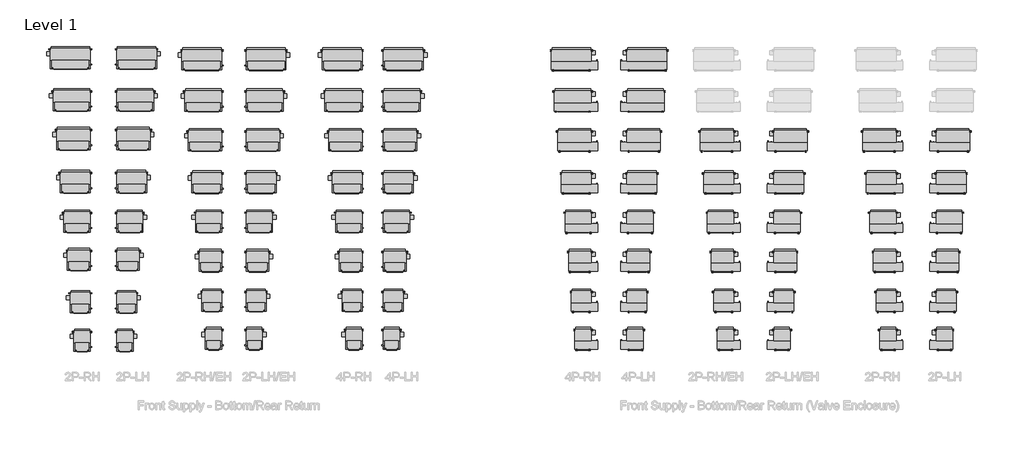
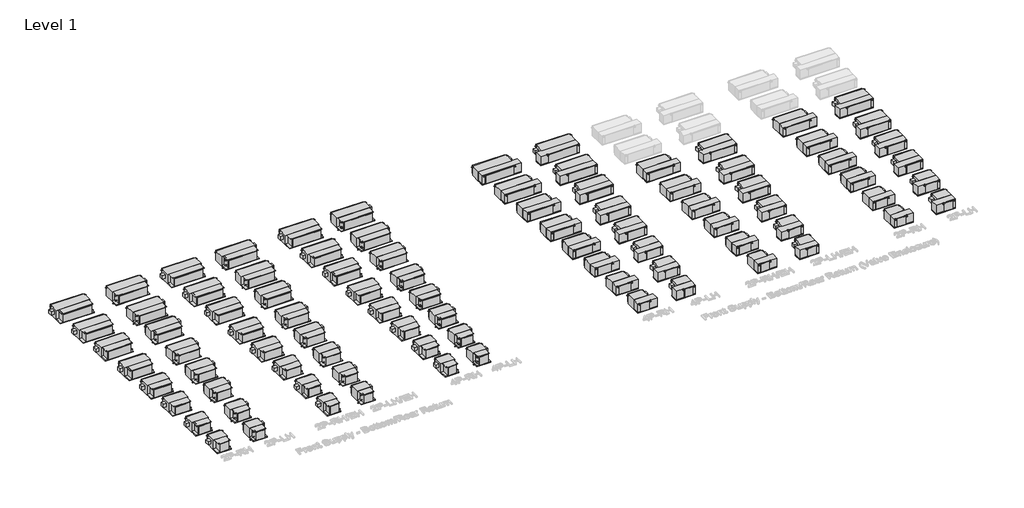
# One storey, part 1 of 5: 88 proxies.
"""IFC4 building model written with IfcOpenShell, lengths in millimetres."""

from ifc_helpers import new_model, si_unit, origin, place, context, project, spatial, transform, mapped, element, save
from components import mechanical_equipment_a65b9fbb, mechanical_equipment_17cbac74, mechanical_equipment_6f01a199, mechanical_equipment_4d0f3ce5, mechanical_equipment_c1538c46, mechanical_equipment_f685141f, mechanical_equipment_2556d2f0, mechanical_equipment_08a460e9, mechanical_equipment_5922c3ad, mechanical_equipment_8a5c4ff3, mechanical_equipment_4f3da22f, mechanical_equipment_0505dad4, mechanical_equipment_aca0d2b0, mechanical_equipment_d44dfcbe, mechanical_equipment_d9ed041b, mechanical_equipment_17672f8f, mechanical_equipment_0e0a8350, mechanical_equipment_1ba72c7d, mechanical_equipment_7e6c187c, mechanical_equipment_ee1d81b4, mechanical_equipment_5ac44aa6, mechanical_equipment_871d34c1, mechanical_equipment_f10d80ba, mechanical_equipment_8ddfa61c, mechanical_equipment_28140981, mechanical_equipment_e26db2fa, mechanical_equipment_0c4eee6a, mechanical_equipment_f5be78a4, mechanical_equipment_1f889669, mechanical_equipment_1070f4e9, mechanical_equipment_d068d5b9, mechanical_equipment_c19a59ca, mechanical_equipment_e9e5bf8a, mechanical_equipment_ea997f06, mechanical_equipment_628c5d06, mechanical_equipment_d50c850d, mechanical_equipment_cc3e10e3, mechanical_equipment_5bab922c, mechanical_equipment_5e729664, mechanical_equipment_cd13e895, mechanical_equipment_9a50b78a, mechanical_equipment_3d5ca929, mechanical_equipment_f9b23777, mechanical_equipment_52020410, mechanical_equipment_bec94e6a, mechanical_equipment_869e3af7, mechanical_equipment_fccde29a, mechanical_equipment_06df331c, mechanical_equipment_4fc60d53, mechanical_equipment_94f2105f, mechanical_equipment_08b20254, mechanical_equipment_d10e933b, mechanical_equipment_5d9127df, mechanical_equipment_019e71df, mechanical_equipment_762c0633, mechanical_equipment_56576a30, mechanical_equipment_ea229e45, mechanical_equipment_a7e31f39, mechanical_equipment_481dc3fd, mechanical_equipment_3fc1bf52

model = new_model("IFC4")

# Units and contexts
model_context = context("Model", 3, world=origin())
ifc_project = project(units=[si_unit("LENGTHUNIT", "METRE", prefix="MILLI")], contexts=[model_context])

# Site, building, storey
site = spatial("IfcSite", under=ifc_project)
building = spatial("IfcBuilding", under=site)
storey = spatial("IfcBuildingStorey", under=building, Name="Level 1", Elevation=0.0)

# Proxies
placement = place(None, origin())
mechanical_equipment_shape = mechanical_equipment_a65b9fbb(model_context)
element("IfcBuildingElementProxy", 1, Name="Concealed_High_Capacity_Horizontal_Fan_Coil_Unit_With_Plenum_-_42DCA_-_CARRIER_-_2-Pipe_Cool-EHeat_LH_2022 : Size 06 - 277v/60Hz/1Ph - 6 Row 4.0kW", ObjectType="Concealed_High_Capacity_Horizontal_Fan_Coil_Unit_With_Plenum_-_42DCA_-_CARRIER_-_2-Pipe_Cool-EHeat_LH_2022 : Size 06 - 277v/60Hz/1Ph - 6 Row 4.0kW", at=placement, inside=storey, context=model_context, shape_type="MappedRepresentation", body=[
    mapped(mechanical_equipment_shape, transform((-23259.7136326, -7951.7923252, 0.0), x_axis=(1.0, 0.0, 0.0), y_axis=(0.0, 1.0, 0.0), z_axis=(0.0, 0.0, 1.0))),
])
mechanical_equipment_2_shape = mechanical_equipment_17cbac74(model_context)
element("IfcBuildingElementProxy", 2, Name="Concealed_High_Capacity_Horizontal_Fan_Coil_Unit_With_Plenum_-_42DCA_-_CARRIER_-_2-Pipe_Cool-EHeat_LH_2022 : Size 08 - 277v/60Hz/1Ph - 6 Row 6.0kW", ObjectType="Concealed_High_Capacity_Horizontal_Fan_Coil_Unit_With_Plenum_-_42DCA_-_CARRIER_-_2-Pipe_Cool-EHeat_LH_2022 : Size 08 - 277v/60Hz/1Ph - 6 Row 6.0kW", at=placement, inside=storey, context=model_context, shape_type="MappedRepresentation", body=[
    mapped(mechanical_equipment_2_shape, transform((-23196.2136326, -6589.2154266, 0.0), x_axis=(1.0, 0.0, 0.0), y_axis=(0.0, 1.0, 0.0), z_axis=(0.0, 0.0, 1.0))),
])
mechanical_equipment_3_shape = mechanical_equipment_6f01a199(model_context)
element("IfcBuildingElementProxy", 3, Name="Concealed_High_Capacity_Horizontal_Fan_Coil_Unit_With_Plenum_-_42DCA_-_CARRIER_-_2-Pipe_Cool-EHeat_LH_2022 : Size 10 - 277v/60Hz/1Ph - 6 Row 7.0kW", ObjectType="Concealed_High_Capacity_Horizontal_Fan_Coil_Unit_With_Plenum_-_42DCA_-_CARRIER_-_2-Pipe_Cool-EHeat_LH_2022 : Size 10 - 277v/60Hz/1Ph - 6 Row 7.0kW", at=placement, inside=storey, context=model_context, shape_type="MappedRepresentation", body=[
    mapped(mechanical_equipment_3_shape, transform((-23145.4136326, -5167.6716717, 0.0), x_axis=(1.0, 0.0, 0.0), y_axis=(0.0, 1.0, 0.0), z_axis=(0.0, 0.0, 1.0))),
])
mechanical_equipment_4_shape = mechanical_equipment_4d0f3ce5(model_context)
element("IfcBuildingElementProxy", 4, Name="Concealed_High_Capacity_Horizontal_Fan_Coil_Unit_With_Plenum_-_42DCA_-_CARRIER_-_2-Pipe_Cool-EHeat_LH_2022 : Size 12 - 277v/60Hz/1Ph - 6 Row 9.0kW", ObjectType="Concealed_High_Capacity_Horizontal_Fan_Coil_Unit_With_Plenum_-_42DCA_-_CARRIER_-_2-Pipe_Cool-EHeat_LH_2022 : Size 12 - 277v/60Hz/1Ph - 6 Row 9.0kW", at=placement, inside=storey, context=model_context, shape_type="MappedRepresentation", body=[
    mapped(mechanical_equipment_4_shape, transform((-23081.9136326, -3769.7146594, 0.0), x_axis=(1.0, 0.0, 0.0), y_axis=(0.0, 1.0, 0.0), z_axis=(0.0, 0.0, 1.0))),
])
mechanical_equipment_5_shape = mechanical_equipment_c1538c46(model_context)
element("IfcBuildingElementProxy", 5, Name="Concealed_High_Capacity_Horizontal_Fan_Coil_Unit_With_Plenum_-_42DCA_-_CARRIER_-_2-Pipe_Cool-EHeat_LH_2022 : Size 14 - 277v/60Hz/1Ph - 6 Row 10.0kW", ObjectType="Concealed_High_Capacity_Horizontal_Fan_Coil_Unit_With_Plenum_-_42DCA_-_CARRIER_-_2-Pipe_Cool-EHeat_LH_2022 : Size 14 - 277v/60Hz/1Ph - 6 Row 10.0kW", at=placement, inside=storey, context=model_context, shape_type="MappedRepresentation", body=[
    mapped(mechanical_equipment_5_shape, transform((-23018.4136326, -2371.757647, 0.0), x_axis=(1.0, 0.0, 0.0), y_axis=(0.0, 1.0, 0.0), z_axis=(0.0, 0.0, 1.0))),
])
mechanical_equipment_6_shape = mechanical_equipment_f685141f(model_context)
element("IfcBuildingElementProxy", 6, Name="Concealed_High_Capacity_Horizontal_Fan_Coil_Unit_With_Plenum_-_42DCA_-_CARRIER_-_2-Pipe_Cool-EHeat_LH_2022 : Size 16 - 277v/60Hz/1Ph - 6 Row 12.0kW", ObjectType="Concealed_High_Capacity_Horizontal_Fan_Coil_Unit_With_Plenum_-_42DCA_-_CARRIER_-_2-Pipe_Cool-EHeat_LH_2022 : Size 16 - 277v/60Hz/1Ph - 6 Row 12.0kW", at=placement, inside=storey, context=model_context, shape_type="MappedRepresentation", body=[
    mapped(mechanical_equipment_6_shape, transform((-22954.9136326, -864.0337784, 0.0), x_axis=(1.0, 0.0, 0.0), y_axis=(0.0, 1.0, 0.0), z_axis=(0.0, 0.0, 1.0))),
])
mechanical_equipment_7_shape = mechanical_equipment_2556d2f0(model_context)
element("IfcBuildingElementProxy", 7, Name="Concealed_High_Capacity_Horizontal_Fan_Coil_Unit_With_Plenum_-_42DCA_-_CARRIER_-_2-Pipe_Cool-EHeat_LH_2022 : Size 18 - 277v/60Hz/1Ph - 6 Row 12.0kW", ObjectType="Concealed_High_Capacity_Horizontal_Fan_Coil_Unit_With_Plenum_-_42DCA_-_CARRIER_-_2-Pipe_Cool-EHeat_LH_2022 : Size 18 - 277v/60Hz/1Ph - 6 Row 12.0kW", at=placement, inside=storey, context=model_context, shape_type="MappedRepresentation", body=[
    mapped(mechanical_equipment_7_shape, transform((-22891.4136326, 549.3431202, 0.0), x_axis=(1.0, 0.0, 0.0), y_axis=(0.0, 1.0, 0.0), z_axis=(0.0, 0.0, 1.0))),
])
mechanical_equipment_8_shape = mechanical_equipment_08a460e9(model_context)
element("IfcBuildingElementProxy", 8, Name="Concealed_High_Capacity_Horizontal_Fan_Coil_Unit_With_Plenum_-_42DCA_-_CARRIER_-_2-Pipe_Cool-EHeat_LH_2022 : Size 20 - 277v/60Hz/1Ph - 6 Row 14.0kW", ObjectType="Concealed_High_Capacity_Horizontal_Fan_Coil_Unit_With_Plenum_-_42DCA_-_CARRIER_-_2-Pipe_Cool-EHeat_LH_2022 : Size 20 - 277v/60Hz/1Ph - 6 Row 14.0kW", at=placement, inside=storey, context=model_context, shape_type="MappedRepresentation", body=[
    mapped(mechanical_equipment_8_shape, transform((-22840.6136326, 2015.3332762, 0.0), x_axis=(1.0, 0.0, 0.0), y_axis=(0.0, 1.0, 0.0), z_axis=(0.0, 0.0, 1.0))),
])
mechanical_equipment_9_shape = mechanical_equipment_5922c3ad(model_context)
element("IfcBuildingElementProxy", 9, Name="Concealed_High_Capacity_Horizontal_Fan_Coil_Unit_With_Plenum_-_42DCA_-_CARRIER_-_4-Pipe_LH_2022 : Size 06 - 277v/60Hz/1Ph - 6/2 Coil", ObjectType="Concealed_High_Capacity_Horizontal_Fan_Coil_Unit_With_Plenum_-_42DCA_-_CARRIER_-_4-Pipe_LH_2022 : Size 06 - 277v/60Hz/1Ph - 6/2 Coil", at=placement, inside=storey, context=model_context, shape_type="MappedRepresentation", body=[
    mapped(mechanical_equipment_9_shape, transform((-18364.6658953, -7951.7923252, 0.0), x_axis=(1.0, 0.0, 0.0), y_axis=(0.0, 1.0, 0.0), z_axis=(0.0, 0.0, 1.0))),
])
mechanical_equipment_10_shape = mechanical_equipment_8a5c4ff3(model_context)
element("IfcBuildingElementProxy", 10, Name="Concealed_High_Capacity_Horizontal_Fan_Coil_Unit_With_Plenum_-_42DCA_-_CARRIER_-_4-Pipe_LH_2022 : Size 08 - 277v/60Hz/1Ph - 6/2 Coil", ObjectType="Concealed_High_Capacity_Horizontal_Fan_Coil_Unit_With_Plenum_-_42DCA_-_CARRIER_-_4-Pipe_LH_2022 : Size 08 - 277v/60Hz/1Ph - 6/2 Coil", at=placement, inside=storey, context=model_context, shape_type="MappedRepresentation", body=[
    mapped(mechanical_equipment_10_shape, transform((-18301.1658953, -6589.2154266, 0.0), x_axis=(1.0, 0.0, 0.0), y_axis=(0.0, 1.0, 0.0), z_axis=(0.0, 0.0, 1.0))),
])
mechanical_equipment_11_shape = mechanical_equipment_4f3da22f(model_context)
element("IfcBuildingElementProxy", 11, Name="Concealed_High_Capacity_Horizontal_Fan_Coil_Unit_With_Plenum_-_42DCA_-_CARRIER_-_4-Pipe_LH_2022 : Size 10 - 277v/60Hz/1Ph - 6/2 Coil", ObjectType="Concealed_High_Capacity_Horizontal_Fan_Coil_Unit_With_Plenum_-_42DCA_-_CARRIER_-_4-Pipe_LH_2022 : Size 10 - 277v/60Hz/1Ph - 6/2 Coil", at=placement, inside=storey, context=model_context, shape_type="MappedRepresentation", body=[
    mapped(mechanical_equipment_11_shape, transform((-18250.3658953, -5167.6716717, 0.0), x_axis=(1.0, 0.0, 0.0), y_axis=(0.0, 1.0, 0.0), z_axis=(0.0, 0.0, 1.0))),
])
mechanical_equipment_12_shape = mechanical_equipment_0505dad4(model_context)
element("IfcBuildingElementProxy", 12, Name="Concealed_High_Capacity_Horizontal_Fan_Coil_Unit_With_Plenum_-_42DCA_-_CARRIER_-_4-Pipe_LH_2022 : Size 12 - 277v/60Hz/1Ph - 6/2 Coil", ObjectType="Concealed_High_Capacity_Horizontal_Fan_Coil_Unit_With_Plenum_-_42DCA_-_CARRIER_-_4-Pipe_LH_2022 : Size 12 - 277v/60Hz/1Ph - 6/2 Coil", at=placement, inside=storey, context=model_context, shape_type="MappedRepresentation", body=[
    mapped(mechanical_equipment_12_shape, transform((-18186.8658953, -3769.7146594, 0.0), x_axis=(1.0, 0.0, 0.0), y_axis=(0.0, 1.0, 0.0), z_axis=(0.0, 0.0, 1.0))),
])
mechanical_equipment_13_shape = mechanical_equipment_aca0d2b0(model_context)
element("IfcBuildingElementProxy", 13, Name="Concealed_High_Capacity_Horizontal_Fan_Coil_Unit_With_Plenum_-_42DCA_-_CARRIER_-_4-Pipe_LH_2022 : Size 14 - 277v/60Hz/1Ph - 6/2 Coil", ObjectType="Concealed_High_Capacity_Horizontal_Fan_Coil_Unit_With_Plenum_-_42DCA_-_CARRIER_-_4-Pipe_LH_2022 : Size 14 - 277v/60Hz/1Ph - 6/2 Coil", at=placement, inside=storey, context=model_context, shape_type="MappedRepresentation", body=[
    mapped(mechanical_equipment_13_shape, transform((-18123.3658953, -2371.757647, 0.0), x_axis=(1.0, 0.0, 0.0), y_axis=(0.0, 1.0, 0.0), z_axis=(0.0, 0.0, 1.0))),
])
mechanical_equipment_14_shape = mechanical_equipment_d44dfcbe(model_context)
element("IfcBuildingElementProxy", 14, Name="Concealed_High_Capacity_Horizontal_Fan_Coil_Unit_With_Plenum_-_42DCA_-_CARRIER_-_4-Pipe_LH_2022 : Size 16 - 277v/60Hz/1Ph - 6/2 Coil", ObjectType="Concealed_High_Capacity_Horizontal_Fan_Coil_Unit_With_Plenum_-_42DCA_-_CARRIER_-_4-Pipe_LH_2022 : Size 16 - 277v/60Hz/1Ph - 6/2 Coil", at=placement, inside=storey, context=model_context, shape_type="MappedRepresentation", body=[
    mapped(mechanical_equipment_14_shape, transform((-18059.8658953, -864.0337784, 0.0), x_axis=(1.0, 0.0, 0.0), y_axis=(0.0, 1.0, 0.0), z_axis=(0.0, 0.0, 1.0))),
])
mechanical_equipment_15_shape = mechanical_equipment_d9ed041b(model_context)
element("IfcBuildingElementProxy", 15, Name="Concealed_High_Capacity_Horizontal_Fan_Coil_Unit_With_Plenum_-_42DCA_-_CARRIER_-_4-Pipe_LH_2022 : Size 18 - 277v/60Hz/1Ph - 6/2 Coil", ObjectType="Concealed_High_Capacity_Horizontal_Fan_Coil_Unit_With_Plenum_-_42DCA_-_CARRIER_-_4-Pipe_LH_2022 : Size 18 - 277v/60Hz/1Ph - 6/2 Coil", at=placement, inside=storey, context=model_context, shape_type="MappedRepresentation", body=[
    mapped(mechanical_equipment_15_shape, transform((-17996.3658953, 549.3431202, 0.0), x_axis=(1.0, 0.0, 0.0), y_axis=(0.0, 1.0, 0.0), z_axis=(0.0, 0.0, 1.0))),
])
mechanical_equipment_16_shape = mechanical_equipment_17672f8f(model_context)
element("IfcBuildingElementProxy", 16, Name="Concealed_High_Capacity_Horizontal_Fan_Coil_Unit_With_Plenum_-_42DCA_-_CARRIER_-_4-Pipe_LH_2022 : Size 20 - 277v/60Hz/1Ph - 6/2 Coil", ObjectType="Concealed_High_Capacity_Horizontal_Fan_Coil_Unit_With_Plenum_-_42DCA_-_CARRIER_-_4-Pipe_LH_2022 : Size 20 - 277v/60Hz/1Ph - 6/2 Coil", at=placement, inside=storey, context=model_context, shape_type="MappedRepresentation", body=[
    mapped(mechanical_equipment_16_shape, transform((-17945.5658953, 2015.3332762, 0.0), x_axis=(1.0, 0.0, 0.0), y_axis=(0.0, 1.0, 0.0), z_axis=(0.0, 0.0, 1.0))),
])
mechanical_equipment_17_shape = mechanical_equipment_0e0a8350(model_context)
element("IfcBuildingElementProxy", 17, Name="Concealed_High_Capacity_Horizontal_Fan_Coil_Unit_With_Plenum_-_42DCA_-_CARRIER_-_4-Pipe_ValveEnclosure_RH_2022 : Size 06 - 277v/60Hz/1Ph - 6/2 Coil", ObjectType="Concealed_High_Capacity_Horizontal_Fan_Coil_Unit_With_Plenum_-_42DCA_-_CARRIER_-_4-Pipe_ValveEnclosure_RH_2022 : Size 06 - 277v/60Hz/1Ph - 6/2 Coil", at=placement, inside=storey, context=model_context, shape_type="MappedRepresentation", body=[
    mapped(mechanical_equipment_17_shape, transform((-11532.0658953, -7951.7923252, 0.0), x_axis=(1.0, 0.0, 0.0), y_axis=(0.0, 1.0, 0.0), z_axis=(0.0, 0.0, 1.0))),
])
mechanical_equipment_18_shape = mechanical_equipment_1ba72c7d(model_context)
element("IfcBuildingElementProxy", 18, Name="Concealed_High_Capacity_Horizontal_Fan_Coil_Unit_With_Plenum_-_42DCA_-_CARRIER_-_4-Pipe_ValveEnclosure_RH_2022 : Size 08 - 277v/60Hz/1Ph - 6/2 Coil", ObjectType="Concealed_High_Capacity_Horizontal_Fan_Coil_Unit_With_Plenum_-_42DCA_-_CARRIER_-_4-Pipe_ValveEnclosure_RH_2022 : Size 08 - 277v/60Hz/1Ph - 6/2 Coil", at=placement, inside=storey, context=model_context, shape_type="MappedRepresentation", body=[
    mapped(mechanical_equipment_18_shape, transform((-11595.5658953, -6589.2154266, 0.0), x_axis=(1.0, 0.0, 0.0), y_axis=(0.0, 1.0, 0.0), z_axis=(0.0, 0.0, 1.0))),
])
mechanical_equipment_19_shape = mechanical_equipment_7e6c187c(model_context)
element("IfcBuildingElementProxy", 19, Name="Concealed_High_Capacity_Horizontal_Fan_Coil_Unit_With_Plenum_-_42DCA_-_CARRIER_-_4-Pipe_ValveEnclosure_RH_2022 : Size 10 - 277v/60Hz/1Ph - 6/2 Coil", ObjectType="Concealed_High_Capacity_Horizontal_Fan_Coil_Unit_With_Plenum_-_42DCA_-_CARRIER_-_4-Pipe_ValveEnclosure_RH_2022 : Size 10 - 277v/60Hz/1Ph - 6/2 Coil", at=placement, inside=storey, context=model_context, shape_type="MappedRepresentation", body=[
    mapped(mechanical_equipment_19_shape, transform((-11646.3658953, -5167.6716717, 0.0), x_axis=(1.0, 0.0, 0.0), y_axis=(0.0, 1.0, 0.0), z_axis=(0.0, 0.0, 1.0))),
])
mechanical_equipment_20_shape = mechanical_equipment_ee1d81b4(model_context)
element("IfcBuildingElementProxy", 20, Name="Concealed_High_Capacity_Horizontal_Fan_Coil_Unit_With_Plenum_-_42DCA_-_CARRIER_-_4-Pipe_ValveEnclosure_RH_2022 : Size 12 - 277v/60Hz/1Ph - 6/2 Coil", ObjectType="Concealed_High_Capacity_Horizontal_Fan_Coil_Unit_With_Plenum_-_42DCA_-_CARRIER_-_4-Pipe_ValveEnclosure_RH_2022 : Size 12 - 277v/60Hz/1Ph - 6/2 Coil", at=placement, inside=storey, context=model_context, shape_type="MappedRepresentation", body=[
    mapped(mechanical_equipment_20_shape, transform((-11709.8658953, -3769.7146594, 0.0), x_axis=(1.0, 0.0, 0.0), y_axis=(0.0, 1.0, 0.0), z_axis=(0.0, 0.0, 1.0))),
])
mechanical_equipment_21_shape = mechanical_equipment_5ac44aa6(model_context)
element("IfcBuildingElementProxy", 21, Name="Concealed_High_Capacity_Horizontal_Fan_Coil_Unit_With_Plenum_-_42DCA_-_CARRIER_-_4-Pipe_ValveEnclosure_RH_2022 : Size 14 - 277v/60Hz/1Ph - 6/2 Coil", ObjectType="Concealed_High_Capacity_Horizontal_Fan_Coil_Unit_With_Plenum_-_42DCA_-_CARRIER_-_4-Pipe_ValveEnclosure_RH_2022 : Size 14 - 277v/60Hz/1Ph - 6/2 Coil", at=placement, inside=storey, context=model_context, shape_type="MappedRepresentation", body=[
    mapped(mechanical_equipment_21_shape, transform((-11773.3658953, -2371.757647, 0.0), x_axis=(1.0, 0.0, 0.0), y_axis=(0.0, 1.0, 0.0), z_axis=(0.0, 0.0, 1.0))),
])
mechanical_equipment_22_shape = mechanical_equipment_871d34c1(model_context)
element("IfcBuildingElementProxy", 22, Name="Concealed_High_Capacity_Horizontal_Fan_Coil_Unit_With_Plenum_-_42DCA_-_CARRIER_-_4-Pipe_ValveEnclosure_RH_2022 : Size 16 - 277v/60Hz/1Ph - 6/2 Coil", ObjectType="Concealed_High_Capacity_Horizontal_Fan_Coil_Unit_With_Plenum_-_42DCA_-_CARRIER_-_4-Pipe_ValveEnclosure_RH_2022 : Size 16 - 277v/60Hz/1Ph - 6/2 Coil", at=placement, inside=storey, context=model_context, shape_type="MappedRepresentation", body=[
    mapped(mechanical_equipment_22_shape, transform((-11836.8658953, -864.0337784, 0.0), x_axis=(1.0, 0.0, 0.0), y_axis=(0.0, 1.0, 0.0), z_axis=(0.0, 0.0, 1.0))),
])
mechanical_equipment_23_shape = mechanical_equipment_f10d80ba(model_context)
element("IfcBuildingElementProxy", 23, Name="Concealed_High_Capacity_Horizontal_Fan_Coil_Unit_With_Plenum_-_42DCA_-_CARRIER_-_4-Pipe_ValveEnclosure_RH_2022 : Size 18 - 277v/60Hz/1Ph - 6/2 Coil", ObjectType="Concealed_High_Capacity_Horizontal_Fan_Coil_Unit_With_Plenum_-_42DCA_-_CARRIER_-_4-Pipe_ValveEnclosure_RH_2022 : Size 18 - 277v/60Hz/1Ph - 6/2 Coil", at=placement, inside=storey, context=model_context, shape_type="MappedRepresentation", body=[
    mapped(mechanical_equipment_23_shape, transform((-11900.3658953, 549.3431202, 0.0), x_axis=(1.0, 0.0, 0.0), y_axis=(0.0, 1.0, 0.0), z_axis=(0.0, 0.0, 1.0))),
])
mechanical_equipment_24_shape = mechanical_equipment_8ddfa61c(model_context)
element("IfcBuildingElementProxy", 24, Name="Concealed_High_Capacity_Horizontal_Fan_Coil_Unit_With_Plenum_-_42DCA_-_CARRIER_-_4-Pipe_ValveEnclosure_RH_2022 : Size 20 - 277v/60Hz/1Ph - 6/2 Coil", ObjectType="Concealed_High_Capacity_Horizontal_Fan_Coil_Unit_With_Plenum_-_42DCA_-_CARRIER_-_4-Pipe_ValveEnclosure_RH_2022 : Size 20 - 277v/60Hz/1Ph - 6/2 Coil", at=placement, inside=storey, context=model_context, shape_type="MappedRepresentation", body=[
    mapped(mechanical_equipment_24_shape, transform((-11951.1658953, 2015.3332762, 0.0), x_axis=(1.0, 0.0, 0.0), y_axis=(0.0, 1.0, 0.0), z_axis=(0.0, 0.0, 1.0))),
])
mechanical_equipment_25_shape = mechanical_equipment_28140981(model_context)
element("IfcBuildingElementProxy", 25, Name="Concealed_High_Capacity_Horizontal_Fan_Coil_Unit_With_Plenum_-_42DCA_-_CARRIER_-_4-Pipe_ValveEnclosure_LH_2022 : Size 06 - 277v/60Hz/1Ph - 6/2 Coil", ObjectType="Concealed_High_Capacity_Horizontal_Fan_Coil_Unit_With_Plenum_-_42DCA_-_CARRIER_-_4-Pipe_ValveEnclosure_LH_2022 : Size 06 - 277v/60Hz/1Ph - 6/2 Coil", at=placement, inside=storey, context=model_context, shape_type="MappedRepresentation", body=[
    mapped(mechanical_equipment_25_shape, transform((-9677.8658953, -7951.7923252, 0.0), x_axis=(1.0, 0.0, 0.0), y_axis=(0.0, 1.0, 0.0), z_axis=(0.0, 0.0, 1.0))),
])
mechanical_equipment_26_shape = mechanical_equipment_e26db2fa(model_context)
element("IfcBuildingElementProxy", 26, Name="Concealed_High_Capacity_Horizontal_Fan_Coil_Unit_With_Plenum_-_42DCA_-_CARRIER_-_4-Pipe_ValveEnclosure_LH_2022 : Size 08 - 277v/60Hz/1Ph - 6/2 Coil", ObjectType="Concealed_High_Capacity_Horizontal_Fan_Coil_Unit_With_Plenum_-_42DCA_-_CARRIER_-_4-Pipe_ValveEnclosure_LH_2022 : Size 08 - 277v/60Hz/1Ph - 6/2 Coil", at=placement, inside=storey, context=model_context, shape_type="MappedRepresentation", body=[
    mapped(mechanical_equipment_26_shape, transform((-9614.3658953, -6589.2154266, 0.0), x_axis=(1.0, 0.0, 0.0), y_axis=(0.0, 1.0, 0.0), z_axis=(0.0, 0.0, 1.0))),
])
mechanical_equipment_27_shape = mechanical_equipment_0c4eee6a(model_context)
element("IfcBuildingElementProxy", 27, Name="Concealed_High_Capacity_Horizontal_Fan_Coil_Unit_With_Plenum_-_42DCA_-_CARRIER_-_4-Pipe_ValveEnclosure_LH_2022 : Size 10 - 277v/60Hz/1Ph - 6/2 Coil", ObjectType="Concealed_High_Capacity_Horizontal_Fan_Coil_Unit_With_Plenum_-_42DCA_-_CARRIER_-_4-Pipe_ValveEnclosure_LH_2022 : Size 10 - 277v/60Hz/1Ph - 6/2 Coil", at=placement, inside=storey, context=model_context, shape_type="MappedRepresentation", body=[
    mapped(mechanical_equipment_27_shape, transform((-9563.5658953, -5167.6716717, 0.0), x_axis=(1.0, 0.0, 0.0), y_axis=(0.0, 1.0, 0.0), z_axis=(0.0, 0.0, 1.0))),
])
mechanical_equipment_28_shape = mechanical_equipment_f5be78a4(model_context)
element("IfcBuildingElementProxy", 28, Name="Concealed_High_Capacity_Horizontal_Fan_Coil_Unit_With_Plenum_-_42DCA_-_CARRIER_-_4-Pipe_ValveEnclosure_LH_2022 : Size 12 - 277v/60Hz/1Ph - 6/2 Coil", ObjectType="Concealed_High_Capacity_Horizontal_Fan_Coil_Unit_With_Plenum_-_42DCA_-_CARRIER_-_4-Pipe_ValveEnclosure_LH_2022 : Size 12 - 277v/60Hz/1Ph - 6/2 Coil", at=placement, inside=storey, context=model_context, shape_type="MappedRepresentation", body=[
    mapped(mechanical_equipment_28_shape, transform((-9500.0658953, -3769.7146594, 0.0), x_axis=(1.0, 0.0, 0.0), y_axis=(0.0, 1.0, 0.0), z_axis=(0.0, 0.0, 1.0))),
])
mechanical_equipment_29_shape = mechanical_equipment_1f889669(model_context)
element("IfcBuildingElementProxy", 29, Name="Concealed_High_Capacity_Horizontal_Fan_Coil_Unit_With_Plenum_-_42DCA_-_CARRIER_-_4-Pipe_ValveEnclosure_LH_2022 : Size 14 - 277v/60Hz/1Ph - 6/2 Coil", ObjectType="Concealed_High_Capacity_Horizontal_Fan_Coil_Unit_With_Plenum_-_42DCA_-_CARRIER_-_4-Pipe_ValveEnclosure_LH_2022 : Size 14 - 277v/60Hz/1Ph - 6/2 Coil", at=placement, inside=storey, context=model_context, shape_type="MappedRepresentation", body=[
    mapped(mechanical_equipment_29_shape, transform((-9436.5658953, -2371.757647, 0.0), x_axis=(1.0, 0.0, 0.0), y_axis=(0.0, 1.0, 0.0), z_axis=(0.0, 0.0, 1.0))),
])
mechanical_equipment_30_shape = mechanical_equipment_1070f4e9(model_context)
element("IfcBuildingElementProxy", 30, Name="Concealed_High_Capacity_Horizontal_Fan_Coil_Unit_With_Plenum_-_42DCA_-_CARRIER_-_4-Pipe_ValveEnclosure_LH_2022 : Size 16 - 277v/60Hz/1Ph - 6/2 Coil", ObjectType="Concealed_High_Capacity_Horizontal_Fan_Coil_Unit_With_Plenum_-_42DCA_-_CARRIER_-_4-Pipe_ValveEnclosure_LH_2022 : Size 16 - 277v/60Hz/1Ph - 6/2 Coil", at=placement, inside=storey, context=model_context, shape_type="MappedRepresentation", body=[
    mapped(mechanical_equipment_30_shape, transform((-9373.0658953, -864.0337784, 0.0), x_axis=(1.0, 0.0, 0.0), y_axis=(0.0, 1.0, 0.0), z_axis=(0.0, 0.0, 1.0))),
])
mechanical_equipment_31_shape = mechanical_equipment_d068d5b9(model_context)
element("IfcBuildingElementProxy", 31, Name="Concealed_High_Capacity_Horizontal_Fan_Coil_Unit_With_Plenum_-_42DCA_-_CARRIER_-_4-Pipe_ValveEnclosure_LH_2022 : Size 18 - 277v/60Hz/1Ph - 6/2 Coil", ObjectType="Concealed_High_Capacity_Horizontal_Fan_Coil_Unit_With_Plenum_-_42DCA_-_CARRIER_-_4-Pipe_ValveEnclosure_LH_2022 : Size 18 - 277v/60Hz/1Ph - 6/2 Coil", at=placement, inside=storey, context=model_context, shape_type="MappedRepresentation", body=[
    mapped(mechanical_equipment_31_shape, transform((-9309.5658953, 549.3431202, 0.0), x_axis=(1.0, 0.0, 0.0), y_axis=(0.0, 1.0, 0.0), z_axis=(0.0, 0.0, 1.0))),
])
mechanical_equipment_32_shape = mechanical_equipment_c19a59ca(model_context)
element("IfcBuildingElementProxy", 32, Name="Concealed_High_Capacity_Horizontal_Fan_Coil_Unit_With_Plenum_-_42DCA_-_CARRIER_-_4-Pipe_ValveEnclosure_LH_2022 : Size 20 - 277v/60Hz/1Ph - 6/2 Coil", ObjectType="Concealed_High_Capacity_Horizontal_Fan_Coil_Unit_With_Plenum_-_42DCA_-_CARRIER_-_4-Pipe_ValveEnclosure_LH_2022 : Size 20 - 277v/60Hz/1Ph - 6/2 Coil", at=placement, inside=storey, context=model_context, shape_type="MappedRepresentation", body=[
    mapped(mechanical_equipment_32_shape, transform((-9258.7658953, 2015.3332762, 0.0), x_axis=(1.0, 0.0, 0.0), y_axis=(0.0, 1.0, 0.0), z_axis=(0.0, 0.0, 1.0))),
])
mechanical_equipment_33_shape = mechanical_equipment_e9e5bf8a(model_context)
element("IfcBuildingElementProxy", 33, Name="Concealed_High_Capacity_Horizontal_Fan_Coil_Unit_With_Plenum_-_42DCA_-_CARRIER_-_2-Pipe_Cool-EHeat_ValveEnclosure_RH_2022 : Size 06 - 277v/60Hz/1Ph - 6 Row 4.0kW", ObjectType="Concealed_High_Capacity_Horizontal_Fan_Coil_Unit_With_Plenum_-_42DCA_-_CARRIER_-_2-Pipe_Cool-EHeat_ValveEnclosure_RH_2022 : Size 06 - 277v/60Hz/1Ph - 6 Row 4.0kW", at=placement, inside=storey, context=model_context, shape_type="MappedRepresentation", body=[
    mapped(mechanical_equipment_33_shape, transform((-6452.0658953, -7951.7923252, 0.0), x_axis=(1.0, 0.0, 0.0), y_axis=(0.0, 1.0, 0.0), z_axis=(0.0, 0.0, 1.0))),
])
mechanical_equipment_34_shape = mechanical_equipment_ea997f06(model_context)
element("IfcBuildingElementProxy", 34, Name="Concealed_High_Capacity_Horizontal_Fan_Coil_Unit_With_Plenum_-_42DCA_-_CARRIER_-_2-Pipe_Cool-EHeat_ValveEnclosure_RH_2022 : Size 08 - 277v/60Hz/1Ph - 6 Row 6.0kW", ObjectType="Concealed_High_Capacity_Horizontal_Fan_Coil_Unit_With_Plenum_-_42DCA_-_CARRIER_-_2-Pipe_Cool-EHeat_ValveEnclosure_RH_2022 : Size 08 - 277v/60Hz/1Ph - 6 Row 6.0kW", at=placement, inside=storey, context=model_context, shape_type="MappedRepresentation", body=[
    mapped(mechanical_equipment_34_shape, transform((-6515.5658953, -6589.2154266, 0.0), x_axis=(1.0, 0.0, 0.0), y_axis=(0.0, 1.0, 0.0), z_axis=(0.0, 0.0, 1.0))),
])
mechanical_equipment_35_shape = mechanical_equipment_628c5d06(model_context)
element("IfcBuildingElementProxy", 35, Name="Concealed_High_Capacity_Horizontal_Fan_Coil_Unit_With_Plenum_-_42DCA_-_CARRIER_-_2-Pipe_Cool-EHeat_ValveEnclosure_RH_2022 : Size 10 - 277v/60Hz/1Ph - 6 Row 7.0kW", ObjectType="Concealed_High_Capacity_Horizontal_Fan_Coil_Unit_With_Plenum_-_42DCA_-_CARRIER_-_2-Pipe_Cool-EHeat_ValveEnclosure_RH_2022 : Size 10 - 277v/60Hz/1Ph - 6 Row 7.0kW", at=placement, inside=storey, context=model_context, shape_type="MappedRepresentation", body=[
    mapped(mechanical_equipment_35_shape, transform((-6566.3658953, -5167.6716717, 0.0), x_axis=(1.0, 0.0, 0.0), y_axis=(0.0, 1.0, 0.0), z_axis=(0.0, 0.0, 1.0))),
])
mechanical_equipment_36_shape = mechanical_equipment_d50c850d(model_context)
element("IfcBuildingElementProxy", 36, Name="Concealed_High_Capacity_Horizontal_Fan_Coil_Unit_With_Plenum_-_42DCA_-_CARRIER_-_2-Pipe_Cool-EHeat_ValveEnclosure_RH_2022 : Size 12 - 277v/60Hz/1Ph - 6 Row 9.0kW", ObjectType="Concealed_High_Capacity_Horizontal_Fan_Coil_Unit_With_Plenum_-_42DCA_-_CARRIER_-_2-Pipe_Cool-EHeat_ValveEnclosure_RH_2022 : Size 12 - 277v/60Hz/1Ph - 6 Row 9.0kW", at=placement, inside=storey, context=model_context, shape_type="MappedRepresentation", body=[
    mapped(mechanical_equipment_36_shape, transform((-6629.8658953, -3769.7146594, 0.0), x_axis=(1.0, 0.0, 0.0), y_axis=(0.0, 1.0, 0.0), z_axis=(0.0, 0.0, 1.0))),
])
mechanical_equipment_37_shape = mechanical_equipment_cc3e10e3(model_context)
element("IfcBuildingElementProxy", 37, Name="Concealed_High_Capacity_Horizontal_Fan_Coil_Unit_With_Plenum_-_42DCA_-_CARRIER_-_2-Pipe_Cool-EHeat_ValveEnclosure_RH_2022 : Size 14 - 277v/60Hz/1Ph - 6 Row 10.0kW", ObjectType="Concealed_High_Capacity_Horizontal_Fan_Coil_Unit_With_Plenum_-_42DCA_-_CARRIER_-_2-Pipe_Cool-EHeat_ValveEnclosure_RH_2022 : Size 14 - 277v/60Hz/1Ph - 6 Row 10.0kW", at=placement, inside=storey, context=model_context, shape_type="MappedRepresentation", body=[
    mapped(mechanical_equipment_37_shape, transform((-6693.3658953, -2371.757647, 0.0), x_axis=(1.0, 0.0, 0.0), y_axis=(0.0, 1.0, 0.0), z_axis=(0.0, 0.0, 1.0))),
])
mechanical_equipment_38_shape = mechanical_equipment_5bab922c(model_context)
element("IfcBuildingElementProxy", 38, Name="Concealed_High_Capacity_Horizontal_Fan_Coil_Unit_With_Plenum_-_42DCA_-_CARRIER_-_2-Pipe_Cool-EHeat_ValveEnclosure_RH_2022 : Size 16 - 277v/60Hz/1Ph - 6 Row 12.0kW", ObjectType="Concealed_High_Capacity_Horizontal_Fan_Coil_Unit_With_Plenum_-_42DCA_-_CARRIER_-_2-Pipe_Cool-EHeat_ValveEnclosure_RH_2022 : Size 16 - 277v/60Hz/1Ph - 6 Row 12.0kW", at=placement, inside=storey, context=model_context, shape_type="MappedRepresentation", body=[
    mapped(mechanical_equipment_38_shape, transform((-6756.8658953, -864.0337784, 0.0), x_axis=(1.0, 0.0, 0.0), y_axis=(0.0, 1.0, 0.0), z_axis=(0.0, 0.0, 1.0))),
])
mechanical_equipment_39_shape = mechanical_equipment_5e729664(model_context)
element("IfcBuildingElementProxy", 39, Name="Concealed_High_Capacity_Horizontal_Fan_Coil_Unit_With_Plenum_-_42DCA_-_CARRIER_-_2-Pipe_Cool-EHeat_ValveEnclosure_LH_2022 : Size 06 - 277v/60Hz/1Ph - 6 Row 4.0kW", ObjectType="Concealed_High_Capacity_Horizontal_Fan_Coil_Unit_With_Plenum_-_42DCA_-_CARRIER_-_2-Pipe_Cool-EHeat_ValveEnclosure_LH_2022 : Size 06 - 277v/60Hz/1Ph - 6 Row 4.0kW", at=placement, inside=storey, context=model_context, shape_type="MappedRepresentation", body=[
    mapped(mechanical_equipment_39_shape, transform((-4445.4658953, -7951.7923252, 0.0), x_axis=(1.0, 0.0, 0.0), y_axis=(0.0, 1.0, 0.0), z_axis=(0.0, 0.0, 1.0))),
])
mechanical_equipment_40_shape = mechanical_equipment_cd13e895(model_context)
element("IfcBuildingElementProxy", 40, Name="Concealed_High_Capacity_Horizontal_Fan_Coil_Unit_With_Plenum_-_42DCA_-_CARRIER_-_2-Pipe_Cool-EHeat_ValveEnclosure_LH_2022 : Size 08 - 277v/60Hz/1Ph - 6 Row 6.0kW", ObjectType="Concealed_High_Capacity_Horizontal_Fan_Coil_Unit_With_Plenum_-_42DCA_-_CARRIER_-_2-Pipe_Cool-EHeat_ValveEnclosure_LH_2022 : Size 08 - 277v/60Hz/1Ph - 6 Row 6.0kW", at=placement, inside=storey, context=model_context, shape_type="MappedRepresentation", body=[
    mapped(mechanical_equipment_40_shape, transform((-4381.9658953, -6589.2154266, 0.0), x_axis=(1.0, 0.0, 0.0), y_axis=(0.0, 1.0, 0.0), z_axis=(0.0, 0.0, 1.0))),
])
mechanical_equipment_41_shape = mechanical_equipment_9a50b78a(model_context)
element("IfcBuildingElementProxy", 41, Name="Concealed_High_Capacity_Horizontal_Fan_Coil_Unit_With_Plenum_-_42DCA_-_CARRIER_-_2-Pipe_Cool-EHeat_ValveEnclosure_LH_2022 : Size 10 - 277v/60Hz/1Ph - 6 Row 7.0kW", ObjectType="Concealed_High_Capacity_Horizontal_Fan_Coil_Unit_With_Plenum_-_42DCA_-_CARRIER_-_2-Pipe_Cool-EHeat_ValveEnclosure_LH_2022 : Size 10 - 277v/60Hz/1Ph - 6 Row 7.0kW", at=placement, inside=storey, context=model_context, shape_type="MappedRepresentation", body=[
    mapped(mechanical_equipment_41_shape, transform((-4331.1658953, -5167.6716717, 0.0), x_axis=(1.0, 0.0, 0.0), y_axis=(0.0, 1.0, 0.0), z_axis=(0.0, 0.0, 1.0))),
])
mechanical_equipment_42_shape = mechanical_equipment_3d5ca929(model_context)
element("IfcBuildingElementProxy", 42, Name="Concealed_High_Capacity_Horizontal_Fan_Coil_Unit_With_Plenum_-_42DCA_-_CARRIER_-_2-Pipe_Cool-EHeat_ValveEnclosure_LH_2022 : Size 12 - 277v/60Hz/1Ph - 6 Row 9.0kW", ObjectType="Concealed_High_Capacity_Horizontal_Fan_Coil_Unit_With_Plenum_-_42DCA_-_CARRIER_-_2-Pipe_Cool-EHeat_ValveEnclosure_LH_2022 : Size 12 - 277v/60Hz/1Ph - 6 Row 9.0kW", at=placement, inside=storey, context=model_context, shape_type="MappedRepresentation", body=[
    mapped(mechanical_equipment_42_shape, transform((-4267.6658953, -3769.7146594, 0.0), x_axis=(1.0, 0.0, 0.0), y_axis=(0.0, 1.0, 0.0), z_axis=(0.0, 0.0, 1.0))),
])
mechanical_equipment_43_shape = mechanical_equipment_f9b23777(model_context)
element("IfcBuildingElementProxy", 43, Name="Concealed_High_Capacity_Horizontal_Fan_Coil_Unit_With_Plenum_-_42DCA_-_CARRIER_-_2-Pipe_Cool-EHeat_ValveEnclosure_LH_2022 : Size 14 - 277v/60Hz/1Ph - 6 Row 10.0kW", ObjectType="Concealed_High_Capacity_Horizontal_Fan_Coil_Unit_With_Plenum_-_42DCA_-_CARRIER_-_2-Pipe_Cool-EHeat_ValveEnclosure_LH_2022 : Size 14 - 277v/60Hz/1Ph - 6 Row 10.0kW", at=placement, inside=storey, context=model_context, shape_type="MappedRepresentation", body=[
    mapped(mechanical_equipment_43_shape, transform((-4204.1658953, -2371.757647, 0.0), x_axis=(1.0, 0.0, 0.0), y_axis=(0.0, 1.0, 0.0), z_axis=(0.0, 0.0, 1.0))),
])
mechanical_equipment_44_shape = mechanical_equipment_52020410(model_context)
element("IfcBuildingElementProxy", 44, Name="Concealed_High_Capacity_Horizontal_Fan_Coil_Unit_With_Plenum_-_42DCA_-_CARRIER_-_2-Pipe_Cool-EHeat_ValveEnclosure_LH_2022 : Size 16 - 277v/60Hz/1Ph - 6 Row 12.0kW", ObjectType="Concealed_High_Capacity_Horizontal_Fan_Coil_Unit_With_Plenum_-_42DCA_-_CARRIER_-_2-Pipe_Cool-EHeat_ValveEnclosure_LH_2022 : Size 16 - 277v/60Hz/1Ph - 6 Row 12.0kW", at=placement, inside=storey, context=model_context, shape_type="MappedRepresentation", body=[
    mapped(mechanical_equipment_44_shape, transform((-4140.6658953, -864.0337784, 0.0), x_axis=(1.0, 0.0, 0.0), y_axis=(0.0, 1.0, 0.0), z_axis=(0.0, 0.0, 1.0))),
])
element("IfcBuildingElementProxy", 45, Name="Concealed_High_Capacity_Horizontal_Fan_Coil_Unit_With_Plenum_-_42DCA_-_CARRIER_-_2-Pipe_Cool_ValveEnclosure_RH_2022 : Size 06 - 277v/60Hz/1Ph - 6 Row", ObjectType="Concealed_High_Capacity_Horizontal_Fan_Coil_Unit_With_Plenum_-_42DCA_-_CARRIER_-_2-Pipe_Cool_ValveEnclosure_RH_2022 : Size 06 - 277v/60Hz/1Ph - 6 Row", at=placement, inside=storey, context=model_context, shape_type="MappedRepresentation", body=[
    mapped(mechanical_equipment_33_shape, transform((-660.8658953, -7951.7923252, 0.0), x_axis=(1.0, 0.0, 0.0), y_axis=(0.0, 1.0, 0.0), z_axis=(0.0, 0.0, 1.0))),
])
element("IfcBuildingElementProxy", 46, Name="Concealed_High_Capacity_Horizontal_Fan_Coil_Unit_With_Plenum_-_42DCA_-_CARRIER_-_2-Pipe_Cool_ValveEnclosure_RH_2022 : Size 08 - 277v/60Hz/1Ph - 6 Row", ObjectType="Concealed_High_Capacity_Horizontal_Fan_Coil_Unit_With_Plenum_-_42DCA_-_CARRIER_-_2-Pipe_Cool_ValveEnclosure_RH_2022 : Size 08 - 277v/60Hz/1Ph - 6 Row", at=placement, inside=storey, context=model_context, shape_type="MappedRepresentation", body=[
    mapped(mechanical_equipment_34_shape, transform((-724.3658953, -6589.2154266, 0.0), x_axis=(1.0, 0.0, 0.0), y_axis=(0.0, 1.0, 0.0), z_axis=(0.0, 0.0, 1.0))),
])
element("IfcBuildingElementProxy", 47, Name="Concealed_High_Capacity_Horizontal_Fan_Coil_Unit_With_Plenum_-_42DCA_-_CARRIER_-_2-Pipe_Cool_ValveEnclosure_RH_2022 : Size 10 - 277v/60Hz/1Ph - 6 Row", ObjectType="Concealed_High_Capacity_Horizontal_Fan_Coil_Unit_With_Plenum_-_42DCA_-_CARRIER_-_2-Pipe_Cool_ValveEnclosure_RH_2022 : Size 10 - 277v/60Hz/1Ph - 6 Row", at=placement, inside=storey, context=model_context, shape_type="MappedRepresentation", body=[
    mapped(mechanical_equipment_35_shape, transform((-775.1658953, -5167.6716717, 0.0), x_axis=(1.0, 0.0, 0.0), y_axis=(0.0, 1.0, 0.0), z_axis=(0.0, 0.0, 1.0))),
])
element("IfcBuildingElementProxy", 48, Name="Concealed_High_Capacity_Horizontal_Fan_Coil_Unit_With_Plenum_-_42DCA_-_CARRIER_-_2-Pipe_Cool_ValveEnclosure_RH_2022 : Size 12 - 277v/60Hz/1Ph - 6 Row", ObjectType="Concealed_High_Capacity_Horizontal_Fan_Coil_Unit_With_Plenum_-_42DCA_-_CARRIER_-_2-Pipe_Cool_ValveEnclosure_RH_2022 : Size 12 - 277v/60Hz/1Ph - 6 Row", at=placement, inside=storey, context=model_context, shape_type="MappedRepresentation", body=[
    mapped(mechanical_equipment_36_shape, transform((-838.6658953, -3769.7146594, 0.0), x_axis=(1.0, 0.0, 0.0), y_axis=(0.0, 1.0, 0.0), z_axis=(0.0, 0.0, 1.0))),
])
element("IfcBuildingElementProxy", 49, Name="Concealed_High_Capacity_Horizontal_Fan_Coil_Unit_With_Plenum_-_42DCA_-_CARRIER_-_2-Pipe_Cool_ValveEnclosure_RH_2022 : Size 14 - 277v/60Hz/1Ph - 6 Row", ObjectType="Concealed_High_Capacity_Horizontal_Fan_Coil_Unit_With_Plenum_-_42DCA_-_CARRIER_-_2-Pipe_Cool_ValveEnclosure_RH_2022 : Size 14 - 277v/60Hz/1Ph - 6 Row", at=placement, inside=storey, context=model_context, shape_type="MappedRepresentation", body=[
    mapped(mechanical_equipment_37_shape, transform((-902.1658953, -2371.757647, 0.0), x_axis=(1.0, 0.0, 0.0), y_axis=(0.0, 1.0, 0.0), z_axis=(0.0, 0.0, 1.0))),
])
element("IfcBuildingElementProxy", 50, Name="Concealed_High_Capacity_Horizontal_Fan_Coil_Unit_With_Plenum_-_42DCA_-_CARRIER_-_2-Pipe_Cool_ValveEnclosure_RH_2022 : Size 16 - 277v/60Hz/1Ph - 6 Row", ObjectType="Concealed_High_Capacity_Horizontal_Fan_Coil_Unit_With_Plenum_-_42DCA_-_CARRIER_-_2-Pipe_Cool_ValveEnclosure_RH_2022 : Size 16 - 277v/60Hz/1Ph - 6 Row", at=placement, inside=storey, context=model_context, shape_type="MappedRepresentation", body=[
    mapped(mechanical_equipment_38_shape, transform((-965.6658953, -864.0337784, 0.0), x_axis=(1.0, 0.0, 0.0), y_axis=(0.0, 1.0, 0.0), z_axis=(0.0, 0.0, 1.0))),
])
element("IfcBuildingElementProxy", 51, Name="Concealed_High_Capacity_Horizontal_Fan_Coil_Unit_With_Plenum_-_42DCA_-_CARRIER_-_2-Pipe_Cool_ValveEnclosure_LH_2022 : Size 06 - 277v/60Hz/1Ph - 6 Row", ObjectType="Concealed_High_Capacity_Horizontal_Fan_Coil_Unit_With_Plenum_-_42DCA_-_CARRIER_-_2-Pipe_Cool_ValveEnclosure_LH_2022 : Size 06 - 277v/60Hz/1Ph - 6 Row", at=placement, inside=storey, context=model_context, shape_type="MappedRepresentation", body=[
    mapped(mechanical_equipment_39_shape, transform((1345.7341047, -7951.7923252, 0.0), x_axis=(1.0, 0.0, 0.0), y_axis=(0.0, 1.0, 0.0), z_axis=(0.0, 0.0, 1.0))),
])
element("IfcBuildingElementProxy", 52, Name="Concealed_High_Capacity_Horizontal_Fan_Coil_Unit_With_Plenum_-_42DCA_-_CARRIER_-_2-Pipe_Cool_ValveEnclosure_LH_2022 : Size 08 - 277v/60Hz/1Ph - 6 Row", ObjectType="Concealed_High_Capacity_Horizontal_Fan_Coil_Unit_With_Plenum_-_42DCA_-_CARRIER_-_2-Pipe_Cool_ValveEnclosure_LH_2022 : Size 08 - 277v/60Hz/1Ph - 6 Row", at=placement, inside=storey, context=model_context, shape_type="MappedRepresentation", body=[
    mapped(mechanical_equipment_40_shape, transform((1409.2341047, -6589.2154266, 0.0), x_axis=(1.0, 0.0, 0.0), y_axis=(0.0, 1.0, 0.0), z_axis=(0.0, 0.0, 1.0))),
])
element("IfcBuildingElementProxy", 53, Name="Concealed_High_Capacity_Horizontal_Fan_Coil_Unit_With_Plenum_-_42DCA_-_CARRIER_-_2-Pipe_Cool_ValveEnclosure_LH_2022 : Size 10 - 277v/60Hz/1Ph - 6 Row", ObjectType="Concealed_High_Capacity_Horizontal_Fan_Coil_Unit_With_Plenum_-_42DCA_-_CARRIER_-_2-Pipe_Cool_ValveEnclosure_LH_2022 : Size 10 - 277v/60Hz/1Ph - 6 Row", at=placement, inside=storey, context=model_context, shape_type="MappedRepresentation", body=[
    mapped(mechanical_equipment_41_shape, transform((1460.0341047, -5167.6716717, 0.0), x_axis=(1.0, 0.0, 0.0), y_axis=(0.0, 1.0, 0.0), z_axis=(0.0, 0.0, 1.0))),
])
element("IfcBuildingElementProxy", 54, Name="Concealed_High_Capacity_Horizontal_Fan_Coil_Unit_With_Plenum_-_42DCA_-_CARRIER_-_2-Pipe_Cool_ValveEnclosure_LH_2022 : Size 12 - 277v/60Hz/1Ph - 6 Row", ObjectType="Concealed_High_Capacity_Horizontal_Fan_Coil_Unit_With_Plenum_-_42DCA_-_CARRIER_-_2-Pipe_Cool_ValveEnclosure_LH_2022 : Size 12 - 277v/60Hz/1Ph - 6 Row", at=placement, inside=storey, context=model_context, shape_type="MappedRepresentation", body=[
    mapped(mechanical_equipment_42_shape, transform((1523.5341047, -3769.7146594, 0.0), x_axis=(1.0, 0.0, 0.0), y_axis=(0.0, 1.0, 0.0), z_axis=(0.0, 0.0, 1.0))),
])
element("IfcBuildingElementProxy", 55, Name="Concealed_High_Capacity_Horizontal_Fan_Coil_Unit_With_Plenum_-_42DCA_-_CARRIER_-_2-Pipe_Cool_ValveEnclosure_LH_2022 : Size 14 - 277v/60Hz/1Ph - 6 Row", ObjectType="Concealed_High_Capacity_Horizontal_Fan_Coil_Unit_With_Plenum_-_42DCA_-_CARRIER_-_2-Pipe_Cool_ValveEnclosure_LH_2022 : Size 14 - 277v/60Hz/1Ph - 6 Row", at=placement, inside=storey, context=model_context, shape_type="MappedRepresentation", body=[
    mapped(mechanical_equipment_43_shape, transform((1587.0341047, -2371.757647, 0.0), x_axis=(1.0, 0.0, 0.0), y_axis=(0.0, 1.0, 0.0), z_axis=(0.0, 0.0, 1.0))),
])
element("IfcBuildingElementProxy", 56, Name="Concealed_High_Capacity_Horizontal_Fan_Coil_Unit_With_Plenum_-_42DCA_-_CARRIER_-_2-Pipe_Cool_ValveEnclosure_LH_2022 : Size 16 - 277v/60Hz/1Ph - 6 Row", ObjectType="Concealed_High_Capacity_Horizontal_Fan_Coil_Unit_With_Plenum_-_42DCA_-_CARRIER_-_2-Pipe_Cool_ValveEnclosure_LH_2022 : Size 16 - 277v/60Hz/1Ph - 6 Row", at=placement, inside=storey, context=model_context, shape_type="MappedRepresentation", body=[
    mapped(mechanical_equipment_44_shape, transform((1650.5341047, -864.0337784, 0.0), x_axis=(1.0, 0.0, 0.0), y_axis=(0.0, 1.0, 0.0), z_axis=(0.0, 0.0, 1.0))),
])
mechanical_equipment_45_shape = mechanical_equipment_bec94e6a(model_context)
element("IfcBuildingElementProxy", 57, Name="Concealed_High_Capacity_Horizontal_Fan_Coil_Unit_With_Plenum_-_42DCA_-_CARRIER_-_2-Pipe_Cool-EHeat_RH_2022 : Size 06 - 277v/60Hz/1Ph - 6 Row 4.0kW", ObjectType="Concealed_High_Capacity_Horizontal_Fan_Coil_Unit_With_Plenum_-_42DCA_-_CARRIER_-_2-Pipe_Cool-EHeat_RH_2022 : Size 06 - 277v/60Hz/1Ph - 6 Row 4.0kW", at=placement, inside=storey, context=model_context, shape_type="MappedRepresentation", body=[
    mapped(mechanical_equipment_45_shape, transform((-24707.5136326, -7951.7923252, 0.0), x_axis=(1.0, 0.0, 0.0), y_axis=(0.0, 1.0, 0.0), z_axis=(0.0, 0.0, 1.0))),
])
mechanical_equipment_46_shape = mechanical_equipment_869e3af7(model_context)
element("IfcBuildingElementProxy", 58, Name="Concealed_High_Capacity_Horizontal_Fan_Coil_Unit_With_Plenum_-_42DCA_-_CARRIER_-_2-Pipe_Cool-EHeat_RH_2022 : Size 08 - 277v/60Hz/1Ph - 6 Row 6.0kW", ObjectType="Concealed_High_Capacity_Horizontal_Fan_Coil_Unit_With_Plenum_-_42DCA_-_CARRIER_-_2-Pipe_Cool-EHeat_RH_2022 : Size 08 - 277v/60Hz/1Ph - 6 Row 6.0kW", at=placement, inside=storey, context=model_context, shape_type="MappedRepresentation", body=[
    mapped(mechanical_equipment_46_shape, transform((-24771.0136326, -6589.2154266, 0.0), x_axis=(1.0, 0.0, 0.0), y_axis=(0.0, 1.0, 0.0), z_axis=(0.0, 0.0, 1.0))),
])
mechanical_equipment_47_shape = mechanical_equipment_fccde29a(model_context)
element("IfcBuildingElementProxy", 59, Name="Concealed_High_Capacity_Horizontal_Fan_Coil_Unit_With_Plenum_-_42DCA_-_CARRIER_-_2-Pipe_Cool-EHeat_RH_2022 : Size 10 - 277v/60Hz/1Ph - 6 Row 7.0kW", ObjectType="Concealed_High_Capacity_Horizontal_Fan_Coil_Unit_With_Plenum_-_42DCA_-_CARRIER_-_2-Pipe_Cool-EHeat_RH_2022 : Size 10 - 277v/60Hz/1Ph - 6 Row 7.0kW", at=placement, inside=storey, context=model_context, shape_type="MappedRepresentation", body=[
    mapped(mechanical_equipment_47_shape, transform((-24821.8136326, -5167.6716717, 0.0), x_axis=(1.0, 0.0, 0.0), y_axis=(0.0, 1.0, 0.0), z_axis=(0.0, 0.0, 1.0))),
])
mechanical_equipment_48_shape = mechanical_equipment_06df331c(model_context)
element("IfcBuildingElementProxy", 60, Name="Concealed_High_Capacity_Horizontal_Fan_Coil_Unit_With_Plenum_-_42DCA_-_CARRIER_-_2-Pipe_Cool-EHeat_RH_2022 : Size 12 - 277v/60Hz/1Ph - 6 Row 9.0kW", ObjectType="Concealed_High_Capacity_Horizontal_Fan_Coil_Unit_With_Plenum_-_42DCA_-_CARRIER_-_2-Pipe_Cool-EHeat_RH_2022 : Size 12 - 277v/60Hz/1Ph - 6 Row 9.0kW", at=placement, inside=storey, context=model_context, shape_type="MappedRepresentation", body=[
    mapped(mechanical_equipment_48_shape, transform((-24885.3136326, -3769.7146594, 0.0), x_axis=(1.0, 0.0, 0.0), y_axis=(0.0, 1.0, 0.0), z_axis=(0.0, 0.0, 1.0))),
])
mechanical_equipment_49_shape = mechanical_equipment_4fc60d53(model_context)
element("IfcBuildingElementProxy", 61, Name="Concealed_High_Capacity_Horizontal_Fan_Coil_Unit_With_Plenum_-_42DCA_-_CARRIER_-_2-Pipe_Cool-EHeat_RH_2022 : Size 14 - 277v/60Hz/1Ph - 6 Row 10.0kW", ObjectType="Concealed_High_Capacity_Horizontal_Fan_Coil_Unit_With_Plenum_-_42DCA_-_CARRIER_-_2-Pipe_Cool-EHeat_RH_2022 : Size 14 - 277v/60Hz/1Ph - 6 Row 10.0kW", at=placement, inside=storey, context=model_context, shape_type="MappedRepresentation", body=[
    mapped(mechanical_equipment_49_shape, transform((-24948.8136326, -2371.757647, 0.0), x_axis=(1.0, 0.0, 0.0), y_axis=(0.0, 1.0, 0.0), z_axis=(0.0, 0.0, 1.0))),
])
mechanical_equipment_50_shape = mechanical_equipment_94f2105f(model_context)
element("IfcBuildingElementProxy", 62, Name="Concealed_High_Capacity_Horizontal_Fan_Coil_Unit_With_Plenum_-_42DCA_-_CARRIER_-_2-Pipe_Cool-EHeat_RH_2022 : Size 16 - 277v/60Hz/1Ph - 6 Row 12.0kW", ObjectType="Concealed_High_Capacity_Horizontal_Fan_Coil_Unit_With_Plenum_-_42DCA_-_CARRIER_-_2-Pipe_Cool-EHeat_RH_2022 : Size 16 - 277v/60Hz/1Ph - 6 Row 12.0kW", at=placement, inside=storey, context=model_context, shape_type="MappedRepresentation", body=[
    mapped(mechanical_equipment_50_shape, transform((-25012.3136326, -864.0337784, 0.0), x_axis=(1.0, 0.0, 0.0), y_axis=(0.0, 1.0, 0.0), z_axis=(0.0, 0.0, 1.0))),
])
mechanical_equipment_51_shape = mechanical_equipment_08b20254(model_context)
element("IfcBuildingElementProxy", 63, Name="Concealed_High_Capacity_Horizontal_Fan_Coil_Unit_With_Plenum_-_42DCA_-_CARRIER_-_2-Pipe_Cool-EHeat_RH_2022 : Size 18 - 277v/60Hz/1Ph - 6 Row 12.0kW", ObjectType="Concealed_High_Capacity_Horizontal_Fan_Coil_Unit_With_Plenum_-_42DCA_-_CARRIER_-_2-Pipe_Cool-EHeat_RH_2022 : Size 18 - 277v/60Hz/1Ph - 6 Row 12.0kW", at=placement, inside=storey, context=model_context, shape_type="MappedRepresentation", body=[
    mapped(mechanical_equipment_51_shape, transform((-25075.8136326, 549.3431202, 0.0), x_axis=(1.0, 0.0, 0.0), y_axis=(0.0, 1.0, 0.0), z_axis=(0.0, 0.0, 1.0))),
])
mechanical_equipment_52_shape = mechanical_equipment_d10e933b(model_context)
element("IfcBuildingElementProxy", 64, Name="Concealed_High_Capacity_Horizontal_Fan_Coil_Unit_With_Plenum_-_42DCA_-_CARRIER_-_2-Pipe_Cool-EHeat_RH_2022 : Size 20 - 277v/60Hz/1Ph - 6 Row 14.0kW", ObjectType="Concealed_High_Capacity_Horizontal_Fan_Coil_Unit_With_Plenum_-_42DCA_-_CARRIER_-_2-Pipe_Cool-EHeat_RH_2022 : Size 20 - 277v/60Hz/1Ph - 6 Row 14.0kW", at=placement, inside=storey, context=model_context, shape_type="MappedRepresentation", body=[
    mapped(mechanical_equipment_52_shape, transform((-25126.6136326, 2015.3332762, 0.0), x_axis=(1.0, 0.0, 0.0), y_axis=(0.0, 1.0, 0.0), z_axis=(0.0, 0.0, 1.0))),
])
mechanical_equipment_53_shape = mechanical_equipment_5d9127df(model_context)
element("IfcBuildingElementProxy", 65, Name="Concealed_High_Capacity_Horizontal_Fan_Coil_Unit_With_Plenum_-_42DCA_-_CARRIER_-_4-Pipe_RH_2022 : Size 06 - 277v/60Hz/1Ph - 6/2 Coil", ObjectType="Concealed_High_Capacity_Horizontal_Fan_Coil_Unit_With_Plenum_-_42DCA_-_CARRIER_-_4-Pipe_RH_2022 : Size 06 - 277v/60Hz/1Ph - 6/2 Coil", at=placement, inside=storey, context=model_context, shape_type="MappedRepresentation", body=[
    mapped(mechanical_equipment_53_shape, transform((-19710.8658953, -7951.7923252, 0.0), x_axis=(1.0, 0.0, 0.0), y_axis=(0.0, 1.0, 0.0), z_axis=(0.0, 0.0, 1.0))),
])
mechanical_equipment_54_shape = mechanical_equipment_019e71df(model_context)
element("IfcBuildingElementProxy", 66, Name="Concealed_High_Capacity_Horizontal_Fan_Coil_Unit_With_Plenum_-_42DCA_-_CARRIER_-_4-Pipe_RH_2022 : Size 08 - 277v/60Hz/1Ph - 6/2 Coil", ObjectType="Concealed_High_Capacity_Horizontal_Fan_Coil_Unit_With_Plenum_-_42DCA_-_CARRIER_-_4-Pipe_RH_2022 : Size 08 - 277v/60Hz/1Ph - 6/2 Coil", at=placement, inside=storey, context=model_context, shape_type="MappedRepresentation", body=[
    mapped(mechanical_equipment_54_shape, transform((-19774.3658953, -6589.2154266, 0.0), x_axis=(1.0, 0.0, 0.0), y_axis=(0.0, 1.0, 0.0), z_axis=(0.0, 0.0, 1.0))),
])
mechanical_equipment_55_shape = mechanical_equipment_762c0633(model_context)
element("IfcBuildingElementProxy", 67, Name="Concealed_High_Capacity_Horizontal_Fan_Coil_Unit_With_Plenum_-_42DCA_-_CARRIER_-_4-Pipe_RH_2022 : Size 10 - 277v/60Hz/1Ph - 6/2 Coil", ObjectType="Concealed_High_Capacity_Horizontal_Fan_Coil_Unit_With_Plenum_-_42DCA_-_CARRIER_-_4-Pipe_RH_2022 : Size 10 - 277v/60Hz/1Ph - 6/2 Coil", at=placement, inside=storey, context=model_context, shape_type="MappedRepresentation", body=[
    mapped(mechanical_equipment_55_shape, transform((-19825.1658953, -5167.6716717, 0.0), x_axis=(1.0, 0.0, 0.0), y_axis=(0.0, 1.0, 0.0), z_axis=(0.0, 0.0, 1.0))),
])
mechanical_equipment_56_shape = mechanical_equipment_56576a30(model_context)
element("IfcBuildingElementProxy", 68, Name="Concealed_High_Capacity_Horizontal_Fan_Coil_Unit_With_Plenum_-_42DCA_-_CARRIER_-_4-Pipe_RH_2022 : Size 12 - 277v/60Hz/1Ph - 6/2 Coil", ObjectType="Concealed_High_Capacity_Horizontal_Fan_Coil_Unit_With_Plenum_-_42DCA_-_CARRIER_-_4-Pipe_RH_2022 : Size 12 - 277v/60Hz/1Ph - 6/2 Coil", at=placement, inside=storey, context=model_context, shape_type="MappedRepresentation", body=[
    mapped(mechanical_equipment_56_shape, transform((-19888.6658953, -3769.7146594, 0.0), x_axis=(1.0, 0.0, 0.0), y_axis=(0.0, 1.0, 0.0), z_axis=(0.0, 0.0, 1.0))),
])
mechanical_equipment_57_shape = mechanical_equipment_ea229e45(model_context)
element("IfcBuildingElementProxy", 69, Name="Concealed_High_Capacity_Horizontal_Fan_Coil_Unit_With_Plenum_-_42DCA_-_CARRIER_-_4-Pipe_RH_2022 : Size 14 - 277v/60Hz/1Ph - 6/2 Coil", ObjectType="Concealed_High_Capacity_Horizontal_Fan_Coil_Unit_With_Plenum_-_42DCA_-_CARRIER_-_4-Pipe_RH_2022 : Size 14 - 277v/60Hz/1Ph - 6/2 Coil", at=placement, inside=storey, context=model_context, shape_type="MappedRepresentation", body=[
    mapped(mechanical_equipment_57_shape, transform((-19952.1658953, -2371.757647, 0.0), x_axis=(1.0, 0.0, 0.0), y_axis=(0.0, 1.0, 0.0), z_axis=(0.0, 0.0, 1.0))),
])
mechanical_equipment_58_shape = mechanical_equipment_a7e31f39(model_context)
element("IfcBuildingElementProxy", 70, Name="Concealed_High_Capacity_Horizontal_Fan_Coil_Unit_With_Plenum_-_42DCA_-_CARRIER_-_4-Pipe_RH_2022 : Size 16 - 277v/60Hz/1Ph - 6/2 Coil", ObjectType="Concealed_High_Capacity_Horizontal_Fan_Coil_Unit_With_Plenum_-_42DCA_-_CARRIER_-_4-Pipe_RH_2022 : Size 16 - 277v/60Hz/1Ph - 6/2 Coil", at=placement, inside=storey, context=model_context, shape_type="MappedRepresentation", body=[
    mapped(mechanical_equipment_58_shape, transform((-20015.6658953, -864.0337784, 0.0), x_axis=(1.0, 0.0, 0.0), y_axis=(0.0, 1.0, 0.0), z_axis=(0.0, 0.0, 1.0))),
])
mechanical_equipment_59_shape = mechanical_equipment_481dc3fd(model_context)
element("IfcBuildingElementProxy", 71, Name="Concealed_High_Capacity_Horizontal_Fan_Coil_Unit_With_Plenum_-_42DCA_-_CARRIER_-_4-Pipe_RH_2022 : Size 18 - 277v/60Hz/1Ph - 6/2 Coil", ObjectType="Concealed_High_Capacity_Horizontal_Fan_Coil_Unit_With_Plenum_-_42DCA_-_CARRIER_-_4-Pipe_RH_2022 : Size 18 - 277v/60Hz/1Ph - 6/2 Coil", at=placement, inside=storey, context=model_context, shape_type="MappedRepresentation", body=[
    mapped(mechanical_equipment_59_shape, transform((-20079.1658953, 549.3431202, 0.0), x_axis=(1.0, 0.0, 0.0), y_axis=(0.0, 1.0, 0.0), z_axis=(0.0, 0.0, 1.0))),
])
mechanical_equipment_60_shape = mechanical_equipment_3fc1bf52(model_context)
element("IfcBuildingElementProxy", 72, Name="Concealed_High_Capacity_Horizontal_Fan_Coil_Unit_With_Plenum_-_42DCA_-_CARRIER_-_4-Pipe_RH_2022 : Size 20 - 277v/60Hz/1Ph - 6/2 Coil", ObjectType="Concealed_High_Capacity_Horizontal_Fan_Coil_Unit_With_Plenum_-_42DCA_-_CARRIER_-_4-Pipe_RH_2022 : Size 20 - 277v/60Hz/1Ph - 6/2 Coil", at=placement, inside=storey, context=model_context, shape_type="MappedRepresentation", body=[
    mapped(mechanical_equipment_60_shape, transform((-20129.9658953, 2015.3332762, 0.0), x_axis=(1.0, 0.0, 0.0), y_axis=(0.0, 1.0, 0.0), z_axis=(0.0, 0.0, 1.0))),
])
element("IfcBuildingElementProxy", 73, Name="Concealed_High_Capacity_Horizontal_Fan_Coil_Unit_With_Plenum_-_42DCA_-_CARRIER_-_2-Pipe_Cool_RH_2022 : Size 06 - 115v/60Hz/1Ph - 6 Row", ObjectType="Concealed_High_Capacity_Horizontal_Fan_Coil_Unit_With_Plenum_-_42DCA_-_CARRIER_-_2-Pipe_Cool_RH_2022 : Size 06 - 115v/60Hz/1Ph - 6 Row", at=placement, inside=storey, context=model_context, shape_type="MappedRepresentation", body=[
    mapped(mechanical_equipment_45_shape, transform((-29400.469749, -8016.2093938, 0.0), x_axis=(1.0, 0.0, 0.0), y_axis=(0.0, 1.0, 0.0), z_axis=(0.0, 0.0, 1.0))),
])
element("IfcBuildingElementProxy", 74, Name="Concealed_High_Capacity_Horizontal_Fan_Coil_Unit_With_Plenum_-_42DCA_-_CARRIER_-_2-Pipe_Cool_RH_2022 : Size 08 - 115v/60Hz/1Ph - 6 Row", ObjectType="Concealed_High_Capacity_Horizontal_Fan_Coil_Unit_With_Plenum_-_42DCA_-_CARRIER_-_2-Pipe_Cool_RH_2022 : Size 08 - 115v/60Hz/1Ph - 6 Row", at=placement, inside=storey, context=model_context, shape_type="MappedRepresentation", body=[
    mapped(mechanical_equipment_46_shape, transform((-29463.969749, -6639.2549581, 0.0), x_axis=(1.0, 0.0, 0.0), y_axis=(0.0, 1.0, 0.0), z_axis=(0.0, 0.0, 1.0))),
])
element("IfcBuildingElementProxy", 75, Name="Concealed_High_Capacity_Horizontal_Fan_Coil_Unit_With_Plenum_-_42DCA_-_CARRIER_-_2-Pipe_Cool_RH_2022 : Size 10 - 115v/60Hz/1Ph - 6 Row", ObjectType="Concealed_High_Capacity_Horizontal_Fan_Coil_Unit_With_Plenum_-_42DCA_-_CARRIER_-_2-Pipe_Cool_RH_2022 : Size 10 - 115v/60Hz/1Ph - 6 Row", at=placement, inside=storey, context=model_context, shape_type="MappedRepresentation", body=[
    mapped(mechanical_equipment_47_shape, transform((-29514.769749, -5128.9281274, 0.0), x_axis=(1.0, 0.0, 0.0), y_axis=(0.0, 1.0, 0.0), z_axis=(0.0, 0.0, 1.0))),
])
element("IfcBuildingElementProxy", 76, Name="Concealed_High_Capacity_Horizontal_Fan_Coil_Unit_With_Plenum_-_42DCA_-_CARRIER_-_2-Pipe_Cool_RH_2022 : Size 12 - 115v/60Hz/1Ph - 6 Row", ObjectType="Concealed_High_Capacity_Horizontal_Fan_Coil_Unit_With_Plenum_-_42DCA_-_CARRIER_-_2-Pipe_Cool_RH_2022 : Size 12 - 115v/60Hz/1Ph - 6 Row", at=placement, inside=storey, context=model_context, shape_type="MappedRepresentation", body=[
    mapped(mechanical_equipment_48_shape, transform((-29578.269749, -3770.0794341, 0.0), x_axis=(1.0, 0.0, 0.0), y_axis=(0.0, 1.0, 0.0), z_axis=(0.0, 0.0, 1.0))),
])
element("IfcBuildingElementProxy", 77, Name="Concealed_High_Capacity_Horizontal_Fan_Coil_Unit_With_Plenum_-_42DCA_-_CARRIER_-_2-Pipe_Cool_RH_2022 : Size 14 - 115v/60Hz/1Ph - 6 Row", ObjectType="Concealed_High_Capacity_Horizontal_Fan_Coil_Unit_With_Plenum_-_42DCA_-_CARRIER_-_2-Pipe_Cool_RH_2022 : Size 14 - 115v/60Hz/1Ph - 6 Row", at=placement, inside=storey, context=model_context, shape_type="MappedRepresentation", body=[
    mapped(mechanical_equipment_49_shape, transform((-29641.769749, -2356.4688745, 0.0), x_axis=(1.0, 0.0, 0.0), y_axis=(0.0, 1.0, 0.0), z_axis=(0.0, 0.0, 1.0))),
])
element("IfcBuildingElementProxy", 78, Name="Concealed_High_Capacity_Horizontal_Fan_Coil_Unit_With_Plenum_-_42DCA_-_CARRIER_-_2-Pipe_Cool_RH_2022 : Size 16 - 115v/60Hz/1Ph - 6 Row", ObjectType="Concealed_High_Capacity_Horizontal_Fan_Coil_Unit_With_Plenum_-_42DCA_-_CARRIER_-_2-Pipe_Cool_RH_2022 : Size 16 - 115v/60Hz/1Ph - 6 Row", at=placement, inside=storey, context=model_context, shape_type="MappedRepresentation", body=[
    mapped(mechanical_equipment_50_shape, transform((-29705.269749, -823.0014909, 0.0), x_axis=(1.0, 0.0, 0.0), y_axis=(0.0, 1.0, 0.0), z_axis=(0.0, 0.0, 1.0))),
])
element("IfcBuildingElementProxy", 79, Name="Concealed_High_Capacity_Horizontal_Fan_Coil_Unit_With_Plenum_-_42DCA_-_CARRIER_-_2-Pipe_Cool_RH_2022 : Size 18 - 115v/60Hz/1Ph - 6 Row", ObjectType="Concealed_High_Capacity_Horizontal_Fan_Coil_Unit_With_Plenum_-_42DCA_-_CARRIER_-_2-Pipe_Cool_RH_2022 : Size 18 - 115v/60Hz/1Ph - 6 Row", at=placement, inside=storey, context=model_context, shape_type="MappedRepresentation", body=[
    mapped(mechanical_equipment_51_shape, transform((-29768.769749, 558.9877553, 0.0), x_axis=(1.0, 0.0, 0.0), y_axis=(0.0, 1.0, 0.0), z_axis=(0.0, 0.0, 1.0))),
])
element("IfcBuildingElementProxy", 80, Name="Concealed_High_Capacity_Horizontal_Fan_Coil_Unit_With_Plenum_-_42DCA_-_CARRIER_-_2-Pipe_Cool_RH_2022 : Size 20 - 115v/60Hz/1Ph - 6 Row", ObjectType="Concealed_High_Capacity_Horizontal_Fan_Coil_Unit_With_Plenum_-_42DCA_-_CARRIER_-_2-Pipe_Cool_RH_2022 : Size 20 - 115v/60Hz/1Ph - 6 Row", at=placement, inside=storey, context=model_context, shape_type="MappedRepresentation", body=[
    mapped(mechanical_equipment_52_shape, transform((-29819.569749, 2062.6701942, 0.0), x_axis=(1.0, 0.0, 0.0), y_axis=(0.0, 1.0, 0.0), z_axis=(0.0, 0.0, 1.0))),
])
element("IfcBuildingElementProxy", 81, Name="Concealed_High_Capacity_Horizontal_Fan_Coil_Unit_With_Plenum_-_42DCA_-_CARRIER_-_2-Pipe_Cool_LH_2022 : Size 06 - 277v/60Hz/1Ph - 6 Row", ObjectType="Concealed_High_Capacity_Horizontal_Fan_Coil_Unit_With_Plenum_-_42DCA_-_CARRIER_-_2-Pipe_Cool_LH_2022 : Size 06 - 277v/60Hz/1Ph - 6 Row", at=placement, inside=storey, context=model_context, shape_type="MappedRepresentation", body=[
    mapped(mechanical_equipment_shape, transform((-27876.469749, -8016.2093938, 0.0), x_axis=(1.0, 0.0, 0.0), y_axis=(0.0, 1.0, 0.0), z_axis=(0.0, 0.0, 1.0))),
])
element("IfcBuildingElementProxy", 82, Name="Concealed_High_Capacity_Horizontal_Fan_Coil_Unit_With_Plenum_-_42DCA_-_CARRIER_-_2-Pipe_Cool_LH_2022 : Size 08 - 277v/60Hz/1Ph - 6 Row", ObjectType="Concealed_High_Capacity_Horizontal_Fan_Coil_Unit_With_Plenum_-_42DCA_-_CARRIER_-_2-Pipe_Cool_LH_2022 : Size 08 - 277v/60Hz/1Ph - 6 Row", at=placement, inside=storey, context=model_context, shape_type="MappedRepresentation", body=[
    mapped(mechanical_equipment_2_shape, transform((-27812.969749, -6639.2549581, 0.0), x_axis=(1.0, 0.0, 0.0), y_axis=(0.0, 1.0, 0.0), z_axis=(0.0, 0.0, 1.0))),
])
element("IfcBuildingElementProxy", 83, Name="Concealed_High_Capacity_Horizontal_Fan_Coil_Unit_With_Plenum_-_42DCA_-_CARRIER_-_2-Pipe_Cool_LH_2022 : Size 10 - 277v/60Hz/1Ph - 6 Row", ObjectType="Concealed_High_Capacity_Horizontal_Fan_Coil_Unit_With_Plenum_-_42DCA_-_CARRIER_-_2-Pipe_Cool_LH_2022 : Size 10 - 277v/60Hz/1Ph - 6 Row", at=placement, inside=storey, context=model_context, shape_type="MappedRepresentation", body=[
    mapped(mechanical_equipment_3_shape, transform((-27762.169749, -5128.9281274, 0.0), x_axis=(1.0, 0.0, 0.0), y_axis=(0.0, 1.0, 0.0), z_axis=(0.0, 0.0, 1.0))),
])
element("IfcBuildingElementProxy", 84, Name="Concealed_High_Capacity_Horizontal_Fan_Coil_Unit_With_Plenum_-_42DCA_-_CARRIER_-_2-Pipe_Cool_LH_2022 : Size 12 - 277v/60Hz/1Ph - 6 Row", ObjectType="Concealed_High_Capacity_Horizontal_Fan_Coil_Unit_With_Plenum_-_42DCA_-_CARRIER_-_2-Pipe_Cool_LH_2022 : Size 12 - 277v/60Hz/1Ph - 6 Row", at=placement, inside=storey, context=model_context, shape_type="MappedRepresentation", body=[
    mapped(mechanical_equipment_4_shape, transform((-27698.669749, -3770.0794341, 0.0), x_axis=(1.0, 0.0, 0.0), y_axis=(0.0, 1.0, 0.0), z_axis=(0.0, 0.0, 1.0))),
])
element("IfcBuildingElementProxy", 85, Name="Concealed_High_Capacity_Horizontal_Fan_Coil_Unit_With_Plenum_-_42DCA_-_CARRIER_-_2-Pipe_Cool_LH_2022 : Size 14 - 277v/60Hz/1Ph - 6 Row", ObjectType="Concealed_High_Capacity_Horizontal_Fan_Coil_Unit_With_Plenum_-_42DCA_-_CARRIER_-_2-Pipe_Cool_LH_2022 : Size 14 - 277v/60Hz/1Ph - 6 Row", at=placement, inside=storey, context=model_context, shape_type="MappedRepresentation", body=[
    mapped(mechanical_equipment_5_shape, transform((-27635.169749, -2356.4688745, 0.0), x_axis=(1.0, 0.0, 0.0), y_axis=(0.0, 1.0, 0.0), z_axis=(0.0, 0.0, 1.0))),
])
element("IfcBuildingElementProxy", 86, Name="Concealed_High_Capacity_Horizontal_Fan_Coil_Unit_With_Plenum_-_42DCA_-_CARRIER_-_2-Pipe_Cool_LH_2022 : Size 16 - 277v/60Hz/1Ph - 6 Row", ObjectType="Concealed_High_Capacity_Horizontal_Fan_Coil_Unit_With_Plenum_-_42DCA_-_CARRIER_-_2-Pipe_Cool_LH_2022 : Size 16 - 277v/60Hz/1Ph - 6 Row", at=placement, inside=storey, context=model_context, shape_type="MappedRepresentation", body=[
    mapped(mechanical_equipment_6_shape, transform((-27571.669749, -823.0014909, 0.0), x_axis=(1.0, 0.0, 0.0), y_axis=(0.0, 1.0, 0.0), z_axis=(0.0, 0.0, 1.0))),
])
element("IfcBuildingElementProxy", 87, Name="Concealed_High_Capacity_Horizontal_Fan_Coil_Unit_With_Plenum_-_42DCA_-_CARRIER_-_2-Pipe_Cool_LH_2022 : Size 18 - 277v/60Hz/1Ph - 6 Row", ObjectType="Concealed_High_Capacity_Horizontal_Fan_Coil_Unit_With_Plenum_-_42DCA_-_CARRIER_-_2-Pipe_Cool_LH_2022 : Size 18 - 277v/60Hz/1Ph - 6 Row", at=placement, inside=storey, context=model_context, shape_type="MappedRepresentation", body=[
    mapped(mechanical_equipment_7_shape, transform((-27508.169749, 558.9877553, 0.0), x_axis=(1.0, 0.0, 0.0), y_axis=(0.0, 1.0, 0.0), z_axis=(0.0, 0.0, 1.0))),
])
element("IfcBuildingElementProxy", 88, Name="Concealed_High_Capacity_Horizontal_Fan_Coil_Unit_With_Plenum_-_42DCA_-_CARRIER_-_2-Pipe_Cool_LH_2022 : Size 20 - 277v/60Hz/1Ph - 6 Row", ObjectType="Concealed_High_Capacity_Horizontal_Fan_Coil_Unit_With_Plenum_-_42DCA_-_CARRIER_-_2-Pipe_Cool_LH_2022 : Size 20 - 277v/60Hz/1Ph - 6 Row", at=placement, inside=storey, context=model_context, shape_type="MappedRepresentation", body=[
    mapped(mechanical_equipment_8_shape, transform((-27457.369749, 2062.6701942, 0.0), x_axis=(1.0, 0.0, 0.0), y_axis=(0.0, 1.0, 0.0), z_axis=(0.0, 0.0, 1.0))),
])

save(model, "model.ifc")
